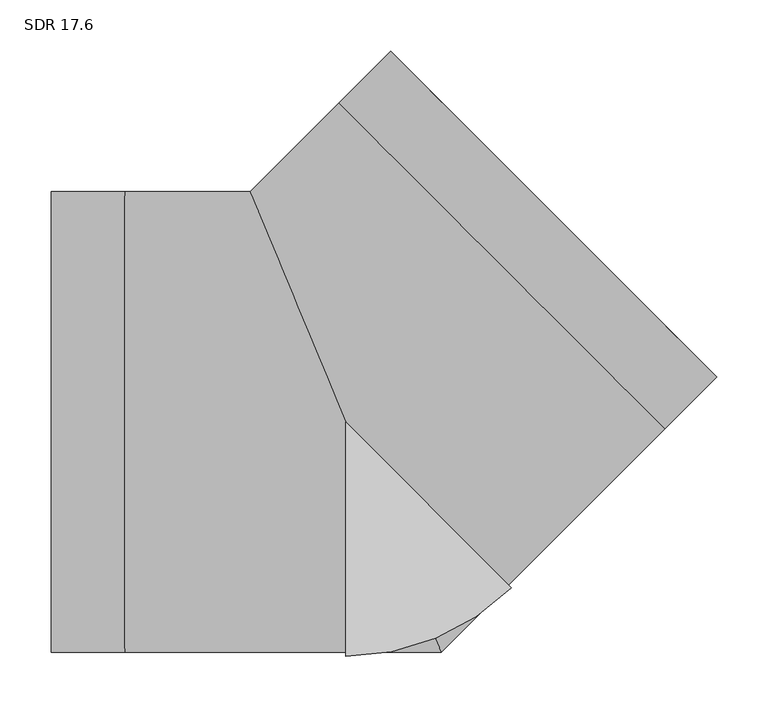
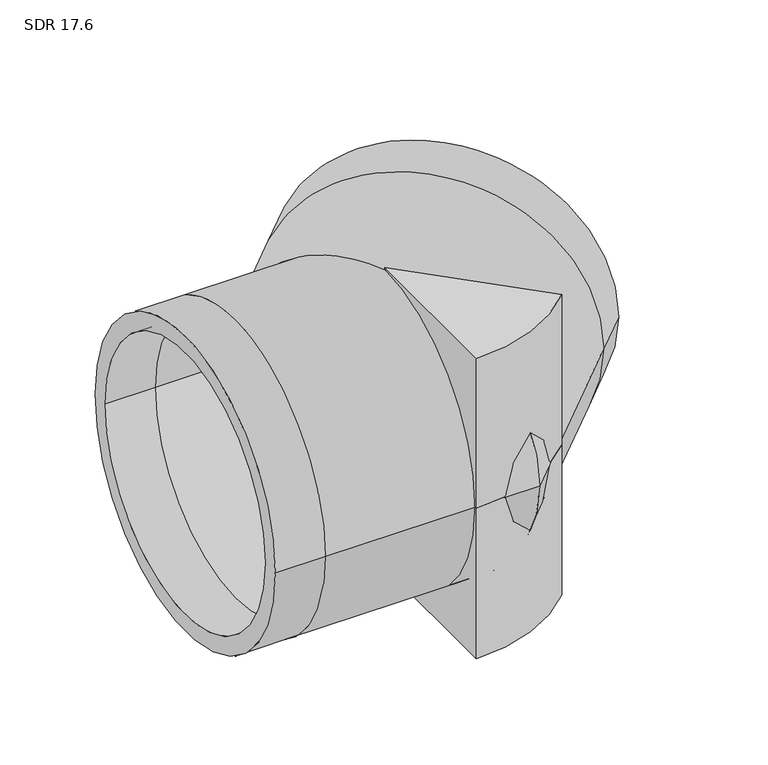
"""IFC4 building model written with IfcOpenShell, lengths in millimetres: pipe fitting geometry, Aquatherm - Elbow Blue BW Segmented : SDR 17.6."""

import ifcopenshell
import ifcopenshell.guid

model = None  # the IFC model being written
_history = None  # IfcOwnerHistory: only IFC2X3 demands one
_inside = {}  # id of a spatial element -> (the spatial element, [elements in it])
_under = {}  # id of a project, library or spatial element -> (it, [spatial elements below it])
_declared = {}  # id of a project -> (the project, [libraries it declares])
_typed = {}  # id of a type object -> (the type object, [elements of that type])
_made_of = {}  # id of a material, layer set ... -> (it, [elements and type objects made of it])


def new_model(schema):
    """Start an empty IFC model of exactly this schema.

    Asked for "IFC4X3", IfcOpenShell would pick the latest addendum, in which some entities
    have other attributes; the version numbers below select the first issue.
    IFC2X3 requires an IfcOwnerHistory on every rooted entity: one is made here for all.
    """
    global model, _history
    if schema == "IFC4X3":
        model = ifcopenshell.file(schema_version=(4, 3, 0, 0))
    else:
        model = ifcopenshell.file(schema=schema)
    _inside.clear()
    _under.clear()
    _declared.clear()
    _typed.clear()
    _made_of.clear()
    _history = None
    if model.schema == "IFC2X3":
        org = make("IfcOrganization", Name="unknown")
        user = make(
            "IfcPersonAndOrganization",
            ThePerson=make("IfcPerson", FamilyName="unknown"),
            TheOrganization=org,
        )
        app = make(
            "IfcApplication",
            ApplicationDeveloper=org,
            Version="unknown",
            ApplicationFullName="unknown",
            ApplicationIdentifier="unknown",
        )
        _history = make(
            "IfcOwnerHistory",
            OwningUser=user,
            OwningApplication=app,
            ChangeAction="ADDED",
            CreationDate=0,
        )
    return model


def make(cls, **values):
    """One entity of the class cls with the attributes given. An attribute that is None is left unset."""
    return model.create_entity(
        cls, **{name: value for name, value in values.items() if value is not None}
    )


def rooted(cls, **values):
    """An entity with a GlobalId (a new one), such as an element, a storey or a relation."""
    return make(cls, GlobalId=ifcopenshell.guid.new(), OwnerHistory=_history, **values)


def si_unit(unit_type, name, prefix=None):
    """IfcSIUnit, for example si_unit("LENGTHUNIT", "METRE", prefix="MILLI")."""
    return make("IfcSIUnit", UnitType=unit_type, Prefix=prefix, Name=name)


def assignment(units):
    """IfcUnitAssignment: the units of a project."""
    return None if units is None else make("IfcUnitAssignment", Units=units)


def point(xyz):
    """IfcCartesianPoint."""
    return None if xyz is None else make("IfcCartesianPoint", Coordinates=xyz)


def direction(xyz):
    """IfcDirection."""
    return None if xyz is None else make("IfcDirection", DirectionRatios=xyz)


def frame(location, z_axis=None, x_axis=None):
    """IfcAxis2Placement3D, a coordinate frame: its origin and axes. An axis left out is left unset."""
    return make(
        "IfcAxis2Placement3D",
        Location=point(location),
        Axis=direction(z_axis),
        RefDirection=direction(x_axis),
    )


def frame_2d(location, x_axis=None):
    """IfcAxis2Placement2D, a coordinate frame in the plane: its origin and x axis."""
    return make(
        "IfcAxis2Placement2D", Location=point(location), RefDirection=direction(x_axis)
    )


def origin():
    """The frame at (0, 0, 0) with its axes left unset."""
    return frame((0.0, 0.0, 0.0))


def origin_with_axes():
    """The frame at (0, 0, 0) with the z axis (0, 0, 1) and the x axis (1, 0, 0) written out."""
    return frame((0.0, 0.0, 0.0), z_axis=(0.0, 0.0, 1.0), x_axis=(1.0, 0.0, 0.0))


def origin_2d():
    """The frame at (0, 0) in the plane with its x axis left unset."""
    return frame_2d((0.0, 0.0))


def place(relative_to, where):
    """IfcLocalPlacement: puts the frame where relative to a parent placement (None: the world)."""
    return make(
        "IfcLocalPlacement", PlacementRelTo=relative_to, RelativePlacement=where
    )


def context(
    kind, dimensions, precision=None, world=None, true_north=None, identifier=None
):
    """IfcGeometricRepresentationContext, for example the 3D "Model" context."""
    return make(
        "IfcGeometricRepresentationContext",
        ContextIdentifier=identifier,
        ContextType=kind,
        CoordinateSpaceDimension=dimensions,
        Precision=precision,
        WorldCoordinateSystem=world,
        TrueNorth=true_north,
    )


def project(units=None, contexts=None):
    """IfcProject with its units and contexts."""
    return rooted(
        "IfcProject",
        Name="project",
        RepresentationContexts=contexts,
        UnitsInContext=assignment(units),
    )


def spatial(cls, under=None, at=None, **own):
    """A site, building, storey or space (cls), placed at a placement, below another one or the project."""
    s = rooted(cls, ObjectPlacement=at, **own)
    if under is not None:
        _under.setdefault(under.id(), (under, []))[1].append(s)
    return s


def polyline(points):
    """IfcPolyline through the points."""
    return make("IfcPolyline", Points=[point(p) for p in points])


def circle_curve(where, radius):
    """IfcCircle in the frame where."""
    return make("IfcCircle", Position=where, Radius=radius)


def ellipse_curve(where, semi_axis1, semi_axis2):
    """IfcEllipse in the frame where."""
    return make(
        "IfcEllipse", Position=where, SemiAxis1=semi_axis1, SemiAxis2=semi_axis2
    )


def trimmed(basis, trim1, trim2, sense, master):
    """IfcTrimmedCurve: the piece of a basis curve between two trims."""
    return make(
        "IfcTrimmedCurve",
        BasisCurve=basis,
        Trim1=trim1,
        Trim2=trim2,
        SenseAgreement=sense,
        MasterRepresentation=master,
    )


def segment(curve, same_sense, transition):
    """IfcCompositeCurveSegment."""
    return make(
        "IfcCompositeCurveSegment",
        Transition=transition,
        SameSense=same_sense,
        ParentCurve=curve,
    )


def composite_curve(segments, self_intersect=None):
    """IfcCompositeCurve: segments joined end to end."""
    return make("IfcCompositeCurve", Segments=segments, SelfIntersect=self_intersect)


def outline(outer, holes=None, kind="AREA"):
    """IfcArbitraryClosedProfileDef: a profile drawn as a closed curve; with holes, ...WithVoids."""
    if holes is None:
        return make("IfcArbitraryClosedProfileDef", ProfileType=kind, OuterCurve=outer)
    return make(
        "IfcArbitraryProfileDefWithVoids",
        ProfileType=kind,
        OuterCurve=outer,
        InnerCurves=holes,
    )


def extrude(swept, where, along, depth):
    """IfcExtrudedAreaSolid: the profile swept, set in the frame where, extruded along a direction by depth."""
    return make(
        "IfcExtrudedAreaSolid",
        SweptArea=swept,
        Position=where,
        ExtrudedDirection=direction(along),
        Depth=depth,
    )


def shape(context_of_items, identifier, shape_type, items):
    """IfcShapeRepresentation: the items that make up one representation, for example the "Body"."""
    return make(
        "IfcShapeRepresentation",
        ContextOfItems=context_of_items,
        RepresentationIdentifier=identifier,
        RepresentationType=shape_type,
        Items=items,
    )


def source(mapping_origin, context_of_items, identifier, shape_type, items):
    """IfcRepresentationMap: a shape defined once, which mapped items show again and again."""
    return make(
        "IfcRepresentationMap",
        MappingOrigin=mapping_origin,
        MappedRepresentation=shape(context_of_items, identifier, shape_type, items),
    )


def transform(
    local_origin,
    x_axis=None,
    y_axis=None,
    z_axis=None,
    scale=None,
    scale2=None,
    scale3=None,
    uniform=True,
):
    """IfcCartesianTransformationOperator3D, or its non-uniform kind. x_axis, y_axis, z_axis: its Axis1, 2, 3."""
    if uniform:
        return make(
            "IfcCartesianTransformationOperator3D",
            Axis1=direction(x_axis),
            Axis2=direction(y_axis),
            LocalOrigin=point(local_origin),
            Scale=scale,
            Axis3=direction(z_axis),
        )
    return make(
        "IfcCartesianTransformationOperator3DnonUniform",
        Axis1=direction(x_axis),
        Axis2=direction(y_axis),
        LocalOrigin=point(local_origin),
        Scale=scale,
        Axis3=direction(z_axis),
        Scale2=scale2,
        Scale3=scale3,
    )


def mapped(mapping_source, mapping_target):
    """IfcMappedItem: shows the shape of a source again, moved by a transform."""
    return make(
        "IfcMappedItem", MappingSource=mapping_source, MappingTarget=mapping_target
    )


def made_of(thing, what):
    """Note that an element or type object is made of a material, layer set ...; save() writes the relation."""
    if what is not None:
        _made_of.setdefault(what.id(), (what, []))[1].append(thing)
    return thing


def element(
    cls,
    number,
    at=None,
    inside=None,
    cuts=None,
    type_object=None,
    material=None,
    context=None,
    identifier="Body",
    shape_type=None,
    held_by="IfcProductDefinitionShape",
    body=None,
    shapes=None,
    **own,
):
    """One element of the class cls, such as IfcWall. Its Tag is "e" and its number.

    at: its placement. inside: the storey or other place that contains it. cuts: it is an
    opening in that element (IfcRelVoidsElement). A single representation is given by context,
    identifier, shape_type and body (its items); several are given by shapes. held_by: the class
    of the entity that holds the representations. save() writes the other relations.
    """
    e = rooted(cls, Tag="e%d" % number, ObjectPlacement=at, **own)
    if body is not None:
        shapes = [shape(context, identifier, shape_type, body)]
    if shapes is not None:
        e.Representation = make(held_by, Representations=shapes)
    if inside is not None:
        _inside.setdefault(inside.id(), (inside, []))[1].append(e)
    if cuts is not None:
        rooted(
            "IfcRelVoidsElement", RelatingBuildingElement=cuts, RelatedOpeningElement=e
        )
    if type_object is not None:
        _typed.setdefault(type_object.id(), (type_object, []))[1].append(e)
    return made_of(e, material)


def aggregate(whole, parts):
    """IfcRelAggregates: a whole, such as a stair, and the parts it consists of."""
    return rooted("IfcRelAggregates", RelatingObject=whole, RelatedObjects=parts)


def save(model, path):
    """Write the relations noted so far, then the file.

    IfcRelAggregates (storeys below a building ...), IfcRelContainedInSpatialStructure (elements
    in a storey), IfcRelDefinesByType, IfcRelAssociatesMaterial and IfcRelDeclares: one each for
    every whole, place, type object, material and project.
    """
    for whole, parts in _under.values():
        aggregate(whole, parts)
    for where, things in _inside.values():
        rooted(
            "IfcRelContainedInSpatialStructure",
            RelatedElements=things,
            RelatingStructure=where,
        )
    for kind, things in _typed.values():
        rooted("IfcRelDefinesByType", RelatedObjects=things, RelatingType=kind)
    for what, things in _made_of.values():
        rooted("IfcRelAssociatesMaterial", RelatedObjects=things, RelatingMaterial=what)
    for by, libraries in _declared.values():
        rooted("IfcRelDeclares", RelatingContext=by, RelatedDefinitions=libraries)
    model.write(path)


def plane_surface(at):
    """IfcPlane: the flat surface through the origin of the frame at, square to its z axis."""
    return make("IfcPlane", Position=at)


def cylinder_surface(at, radius):
    """IfcCylindricalSurface: all points at the distance radius from the z axis of the frame at."""
    return make("IfcCylindricalSurface", Position=at, Radius=radius)


def revolved_surface(curve, axis_point, axis_direction):
    """IfcSurfaceOfRevolution: the curve turned about the line through axis_point along axis_direction."""
    return make(
        "IfcSurfaceOfRevolution",
        SweptCurve=make("IfcArbitraryOpenProfileDef", ProfileType="CURVE", Curve=curve),
        AxisPosition=make("IfcAxis1Placement", Location=point(axis_point), Axis=direction(axis_direction)),
    )


def advanced_brep(points, edges, surfaces, faces):
    """IfcAdvancedBrep: a solid bounded by faces that lie on surfaces and meet in shared edges.

    An edge is (start, end): straight between two places in points (the first is 0);
    or (start, end, curve); or (start, end, curve, False) where it runs against its curve.
    A face is (place in surfaces, loops), or (place, loops, False) where it looks against
    its surface's normal. A loop lists edges by number (the first is 1), with a minus sign
    where the edge is run from its end to its start. The first loop is the outer one.
    """
    corners = [point(p) for p in points]
    vertices = [make("IfcVertexPoint", VertexGeometry=c) for c in corners]
    made = []
    for start, end, *more in edges:
        made.append(
            make(
                "IfcEdgeCurve",
                EdgeStart=vertices[start],
                EdgeEnd=vertices[end],
                EdgeGeometry=more[0] if more else make("IfcPolyline", Points=[corners[start], corners[end]]),
                SameSense=more[1] if len(more) > 1 else True,
            )
        )
    hull = []
    for where, loops, *sense in faces:
        bounds = []
        for j, loop in enumerate(loops):
            ring = [make("IfcOrientedEdge", EdgeElement=made[abs(k) - 1], Orientation=k > 0) for k in loop]
            bounds.append(
                make(
                    "IfcFaceOuterBound" if j == 0 else "IfcFaceBound",
                    Bound=make("IfcEdgeLoop", EdgeList=ring),
                    Orientation=True,
                )
            )
        hull.append(make("IfcAdvancedFace", Bounds=bounds, FaceSurface=surfaces[where], SameSense=sense[0] if sense else True))
    return make("IfcAdvancedBrep", Outer=make("IfcClosedShell", CfsFaces=hull))


def sdr_17_6_27075ba0(model_context):
    return source(origin(), model_context, "Body", "SolidModel", [
        extrude(outline(composite_curve([segment(polyline([(0.0, -228.6), (0.0, 0.0), (161.6446102, -161.6446102)]), True, "CONTINUOUS"), segment(trimmed(circle_curve(origin_2d(), 228.6), [point((161.6446102, -161.6446102))], [point((0.0, -228.6))], False, "CARTESIAN"), True, "CONTINUOUS")], self_intersect=False)), frame((0.0, 0.0, -228.6), z_axis=(0.0, 0.0, 1.0), x_axis=(1.0, 0.0, 0.0)), (0.0, 0.0, 1.0), 228.6),
        extrude(outline(composite_curve([segment(trimmed(circle_curve(origin_2d(), 228.6), [point((161.6446102, -161.6446102))], [point((0.0, -228.6))], False, "CARTESIAN"), True, "CONTINUOUS"), segment(polyline([(0.0, -228.6), (0.0, 0.0), (161.6446102, -161.6446102)]), True, "CONTINUOUS")], self_intersect=False)), origin_with_axes(), (0.0, 0.0, 1.0), 228.6),
        advanced_brep(
        [(-287.02, -224.79, 0.0), (-287.02, 224.79, 0.0), (-287.02, -199.2479494, 0.0), (-287.02, 199.2479494, 0.0), (361.9043217, 44.003255, 0.0), (44.003255, 361.9043217, 0.0), (343.8433645, 62.0642122, 0.0), (62.0642122, 343.8433645, 0.0), (-215.265, -224.79, 0.0), (-215.265, 224.79, 0.0), (-215.265, -199.2479494, 0.0), (-215.265, 199.2479494, 0.0), (93.1110667, -224.79, 0.0), (-93.1110667, 224.79, 0.0), (82.5312029, -199.2479494, 0.0), (-82.5312029, 199.2479494, 0.0), (311.1658746, -6.7351921, 0.0), (-6.7351921, 311.1658746, 0.0), (293.1049174, 11.3257651, 0.0), (11.3257651, 293.1049174, 0.0)],
        [
            (0, 1, circle_curve(frame((-287.02, 0.0, 0.0), z_axis=(-1.0, 0.0, 0.0), x_axis=(0.0, 1.0, 0.0)), 224.79)),
            (1, 0, circle_curve(frame((-287.02, 0.0, 0.0), z_axis=(-1.0, 0.0, 0.0), x_axis=(0.0, 1.0, 0.0)), 224.79)),
            (2, 3, circle_curve(frame((-287.02, 0.0, 0.0), z_axis=(1.0, 0.0, 0.0), x_axis=(0.0, 1.0, 0.0)), 199.2479494)),
            (3, 2, circle_curve(frame((-287.02, 0.0, 0.0), z_axis=(1.0, 0.0, 0.0), x_axis=(0.0, 1.0, 0.0)), 199.2479494)),
            (4, 5, circle_curve(frame((202.9537883, 202.9537883, 0.0), z_axis=(0.7071067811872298, 0.7071067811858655, 0.0), x_axis=(-0.7071067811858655, 0.7071067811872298, 0.0)), 224.79)),
            (5, 4, circle_curve(frame((202.9537883, 202.9537883, 0.0), z_axis=(0.7071067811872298, 0.7071067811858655, 0.0), x_axis=(-0.7071067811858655, 0.7071067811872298, 0.0)), 224.79)),
            (6, 7, circle_curve(frame((202.9537883, 202.9537883, 0.0), z_axis=(-0.7071067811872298, -0.7071067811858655, 0.0), x_axis=(-0.7071067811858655, 0.7071067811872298, 0.0)), 199.2479494)),
            (7, 6, circle_curve(frame((202.9537883, 202.9537883, 0.0), z_axis=(-0.7071067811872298, -0.7071067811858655, 0.0), x_axis=(-0.7071067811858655, 0.7071067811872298, 0.0)), 199.2479494)),
            (0, 8),
            (8, 9, circle_curve(frame((-215.265, 0.0, 0.0), z_axis=(-1.0, 0.0, 0.0), x_axis=(0.0, 1.0, 0.0)), 224.79)),
            (9, 1),
            (9, 8, circle_curve(frame((-215.265, 0.0, 0.0), z_axis=(-1.0, 0.0, 0.0), x_axis=(0.0, 1.0, 0.0)), 224.79)),
            (2, 10),
            (10, 11, circle_curve(frame((-215.265, 0.0, 0.0), z_axis=(1.0, 0.0, 0.0), x_axis=(0.0, 1.0, 0.0)), 199.2479494)),
            (11, 3),
            (11, 10, circle_curve(frame((-215.265, 0.0, 0.0), z_axis=(1.0, 0.0, 0.0), x_axis=(0.0, 1.0, 0.0)), 199.2479494)),
            (8, 12),
            (12, 13, ellipse_curve(frame((0.0, 0.0, 0.0), z_axis=(-0.9238795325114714, -0.38268343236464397, 0.0), x_axis=(-0.38268343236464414, 0.9238795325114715, 0.0)), 243.3109427, 224.79)),
            (13, 9),
            (13, 12, ellipse_curve(frame((0.0, 0.0, 0.0), z_axis=(-0.9238795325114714, -0.38268343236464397, 0.0), x_axis=(-0.38268343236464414, 0.9238795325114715, 0.0)), 243.3109427, 224.79)),
            (10, 14),
            (14, 15, ellipse_curve(frame((0.0, 0.0, 0.0), z_axis=(0.9238795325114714, 0.38268343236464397, 0.0), x_axis=(0.38268343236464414, -0.9238795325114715, 0.0)), 215.6644264, 199.2479494)),
            (15, 11),
            (15, 14, ellipse_curve(frame((0.0, 0.0, 0.0), z_axis=(0.9238795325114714, 0.38268343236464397, 0.0), x_axis=(0.38268343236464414, -0.9238795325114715, 0.0)), 215.6644264, 199.2479494)),
            (12, 16),
            (16, 17, circle_curve(frame((152.2153413, 152.2153413, 0.0), z_axis=(-0.7071067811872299, -0.7071067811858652, 0.0), x_axis=(-0.7071067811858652, 0.7071067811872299, 0.0)), 224.79)),
            (17, 13),
            (17, 16, circle_curve(frame((152.2153413, 152.2153413, 0.0), z_axis=(-0.7071067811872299, -0.7071067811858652, 0.0), x_axis=(-0.7071067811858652, 0.7071067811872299, 0.0)), 224.79)),
            (14, 18),
            (18, 19, circle_curve(frame((152.2153413, 152.2153413, 0.0), z_axis=(0.7071067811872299, 0.7071067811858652, 0.0), x_axis=(-0.7071067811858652, 0.7071067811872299, 0.0)), 199.2479494)),
            (19, 15),
            (19, 18, circle_curve(frame((152.2153413, 152.2153413, 0.0), z_axis=(0.7071067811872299, 0.7071067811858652, 0.0), x_axis=(-0.7071067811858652, 0.7071067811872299, 0.0)), 199.2479494)),
            (16, 4),
            (5, 17),
            (18, 6),
            (7, 19),
        ],
        [
            plane_surface(frame((-287.02, 0.0, 0.0), z_axis=(-1.0, 0.0, 0.0), x_axis=(0.0, 0.0, 1.0))),
            plane_surface(frame((202.9537883, 202.9537883, 0.0), z_axis=(0.7071067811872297, 0.7071067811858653, 0.0), x_axis=(0.0, 0.0, 1.0))),
            cylinder_surface(frame((-287.02, 0.0, 0.0), z_axis=(-1.0, 0.0, 0.0), x_axis=(0.0, 1.0, 0.0)), 224.79),
            revolved_surface(polyline([(-215.265, 199.2479494, 0.0), (-287.02, 199.2479494, 0.0)]), (-287.02, 0.0, 0.0), (1.0, 0.0, 0.0)),
            cylinder_surface(frame((-215.265, 0.0, 0.0), z_axis=(-1.0, 0.0, 0.0), x_axis=(0.0, 1.0, 0.0)), 224.79),
            revolved_surface(polyline([(82.53120293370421, 199.2479494, 0.0), (-215.265, 199.2479494, 0.0)]), (-215.265, 0.0, 0.0), (1.0, 0.0, 0.0)),
            cylinder_surface(frame((0.0, 0.0, 0.0), z_axis=(-0.7071067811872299, -0.7071067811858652, 0.0), x_axis=(-0.7071067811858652, 0.7071067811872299, 0.0)), 224.79),
            revolved_surface(polyline([(11.325765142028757, 293.1049174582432, 0.0), (-199.24794941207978, 82.53120290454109, 0.0)]), (0.0, 0.0, 0.0), (0.7071067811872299, 0.7071067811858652, 0.0)),
            cylinder_surface(frame((152.2153413, 152.2153413, 0.0), z_axis=(-0.7071067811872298, -0.7071067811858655, 0.0), x_axis=(-0.7071067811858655, 0.7071067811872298, 0.0)), 224.79),
            revolved_surface(polyline([(62.0642121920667, 343.843364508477, 0.0), (11.325765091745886, 293.1049174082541, 0.0)]), (152.2153413, 152.2153413, 0.0), (0.7071067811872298, 0.7071067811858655, 0.0)),
        ],
        [
            (0, [[1, 2], [3, 4]]),
            (1, [[5, 6], [7, 8]]),
            (2, [[-1, 9, 10, 11]]),
            (2, [[-2, -11, 12, -9]]),
            (3, [[-3, 13, 14, 15]]),
            (3, [[-4, -15, 16, -13]]),
            (4, [[-10, 17, 18, 19]]),
            (4, [[-12, -19, 20, -17]]),
            (5, [[-14, 21, 22, 23]]),
            (5, [[-16, -23, 24, -21]]),
            (6, [[-18, 25, 26, 27]]),
            (6, [[-20, -27, 28, -25]]),
            (7, [[-22, 29, 30, 31]]),
            (7, [[-24, -31, 32, -29]]),
            (8, [[-26, 33, -6, 34]]),
            (8, [[-28, -34, -5, -33]]),
            (9, [[-30, 35, -8, 36]]),
            (9, [[-32, -36, -7, -35]]),
        ],
    ),
    ])


if __name__ == "__main__":
    model = new_model("IFC4")
    model_context = context("Model", 3, world=origin())
    ifc_project = project(units=[si_unit("LENGTHUNIT", "METRE", prefix="MILLI")], contexts=[model_context])
    site = spatial("IfcSite", under=ifc_project)
    building = spatial("IfcBuilding", under=site)
    placement = place(None, origin())
    sdr_17_6_shape = sdr_17_6_27075ba0(model_context)
    element("IfcPipeFitting", 1, ObjectType="Aquatherm - Elbow Blue BW Segmented : SDR 17.6", at=placement, inside=building, context=model_context, shape_type="MappedRepresentation", body=[
        mapped(sdr_17_6_shape, transform((0.0, 0.0, 0.0), x_axis=(1.0, 0.0, 0.0), y_axis=(0.0, 1.0, 0.0), z_axis=(0.0, 0.0, 1.0))),
    ])
    save(model, "model.ifc")
